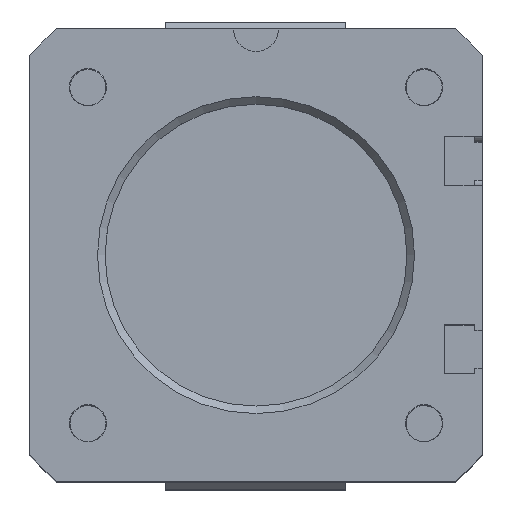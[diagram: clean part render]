
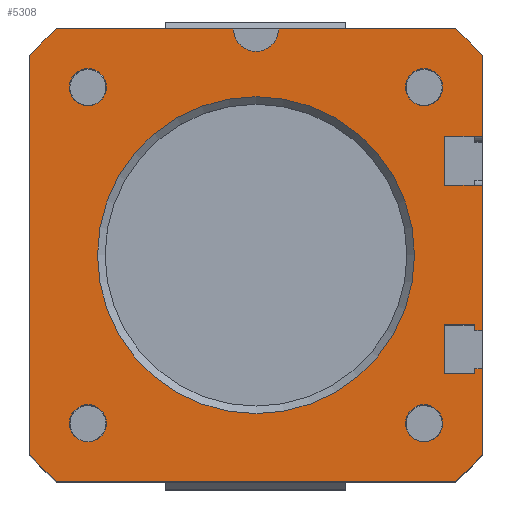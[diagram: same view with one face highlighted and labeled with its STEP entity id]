
A CAD part, top view. The second image highlights one B-rep face of the part: STEP entity #5308.
In plain terms, the highlighted planar face has unit normal (0, 0, 1).
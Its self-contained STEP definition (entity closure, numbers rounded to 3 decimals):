
#135=LINE('',#8026,#449);
#144=LINE('',#8052,#458);
#163=LINE('',#8119,#477);
#169=LINE('',#8134,#483);
#179=LINE('',#8153,#493);
#181=LINE('',#8157,#495);
#196=LINE('',#8188,#510);
#198=LINE('',#8193,#512);
#202=LINE('',#8201,#516);
#207=LINE('',#8210,#521);
#211=LINE('',#8217,#525);
#212=LINE('',#8220,#526);
#213=LINE('',#8225,#527);
#216=LINE('',#8229,#530);
#218=LINE('',#8234,#532);
#225=LINE('',#8332,#539);
#226=LINE('',#8333,#540);
#449=VECTOR('',#6488,52.915);
#458=VECTOR('',#6509,52.915);
#477=VECTOR('',#6564,19.2);
#483=VECTOR('',#6574,11.408);
#493=VECTOR('',#6584,10.708);
#495=VECTOR('',#6588,5.);
#510=VECTOR('',#6613,6.5);
#512=VECTOR('',#6617,1.);
#516=VECTOR('',#6623,4.);
#521=VECTOR('',#6630,6.5);
#525=VECTOR('',#6636,4.);
#526=VECTOR('',#6641,0.7);
#527=VECTOR('',#6646,0.7);
#530=VECTOR('',#6651,1.);
#532=VECTOR('',#6659,5.);
#539=VECTOR('',#6714,23.458);
#540=VECTOR('',#6715,23.458);
#846=PLANE('',#5767);
#1054=FACE_BOUND('',#1732,.T.);
#1055=FACE_BOUND('',#1733,.T.);
#1056=FACE_BOUND('',#1734,.T.);
#1057=FACE_BOUND('',#1735,.T.);
#1058=FACE_BOUND('',#1736,.T.);
#1364=FACE_OUTER_BOUND('',#1731,.T.);
#1731=EDGE_LOOP('',(#3894,#3895,#3896,#3897,#3898,#3899,#3900,#3901,#3902,
#3903,#3904,#3905,#3906,#3907,#3908,#3909,#3910,#3911,#3912,#3913,#3914,
#3915));
#1732=EDGE_LOOP('',(#3916));
#1733=EDGE_LOOP('',(#3917));
#1734=EDGE_LOOP('',(#3918));
#1735=EDGE_LOOP('',(#3919));
#1736=EDGE_LOOP('',(#3920));
#2177=CIRCLE('',#5702,40.);
#2181=CIRCLE('',#5708,40.);
#2183=CIRCLE('',#5711,40.);
#2185=CIRCLE('',#5714,40.);
#2201=CIRCLE('',#5751,2.459);
#2203=CIRCLE('',#5754,2.459);
#2204=CIRCLE('',#5756,2.459);
#2205=CIRCLE('',#5758,2.459);
#2209=CIRCLE('',#5768,3.);
#2210=CIRCLE('',#5769,21.);
#2465=VERTEX_POINT('',#8022);
#2467=VERTEX_POINT('',#8025);
#2474=VERTEX_POINT('',#8041);
#2478=VERTEX_POINT('',#8051);
#2488=VERTEX_POINT('',#8073);
#2490=VERTEX_POINT('',#8079);
#2492=VERTEX_POINT('',#8082);
#2494=VERTEX_POINT('',#8088);
#2507=VERTEX_POINT('',#8116);
#2508=VERTEX_POINT('',#8118);
#2515=VERTEX_POINT('',#8132);
#2524=VERTEX_POINT('',#8152);
#2525=VERTEX_POINT('',#8156);
#2536=VERTEX_POINT('',#8186);
#2538=VERTEX_POINT('',#8192);
#2540=VERTEX_POINT('',#8198);
#2541=VERTEX_POINT('',#8200);
#2544=VERTEX_POINT('',#8208);
#2546=VERTEX_POINT('',#8215);
#2548=VERTEX_POINT('',#8224);
#2550=VERTEX_POINT('',#8244);
#2552=VERTEX_POINT('',#8249);
#2553=VERTEX_POINT('',#8252);
#2554=VERTEX_POINT('',#8255);
#2562=VERTEX_POINT('',#8329);
#2563=VERTEX_POINT('',#8330);
#2564=VERTEX_POINT('',#8334);
#2969=EDGE_CURVE('',#2467,#2465,#135,.T.);
#2977=EDGE_CURVE('',#2474,#2467,#2177,.T.);
#2982=EDGE_CURVE('',#2478,#2474,#144,.T.);
#2993=EDGE_CURVE('',#2488,#2478,#2181,.T.);
#2997=EDGE_CURVE('',#2492,#2490,#2183,.T.);
#3001=EDGE_CURVE('',#2465,#2494,#2185,.T.);
#3014=EDGE_CURVE('',#2508,#2507,#163,.T.);
#3022=EDGE_CURVE('',#2494,#2515,#169,.T.);
#3032=EDGE_CURVE('',#2524,#2492,#179,.T.);
#3034=EDGE_CURVE('',#2507,#2525,#181,.T.);
#3050=EDGE_CURVE('',#2525,#2536,#196,.T.);
#3052=EDGE_CURVE('',#2538,#2508,#198,.T.);
#3056=EDGE_CURVE('',#2541,#2540,#202,.T.);
#3061=EDGE_CURVE('',#2540,#2544,#207,.T.);
#3065=EDGE_CURVE('',#2544,#2546,#211,.T.);
#3067=EDGE_CURVE('',#2546,#2538,#212,.T.);
#3069=EDGE_CURVE('',#2548,#2541,#213,.T.);
#3072=EDGE_CURVE('',#2515,#2548,#216,.T.);
#3075=EDGE_CURVE('',#2536,#2524,#218,.T.);
#3079=EDGE_CURVE('',#2550,#2550,#2201,.T.);
#3081=EDGE_CURVE('',#2552,#2552,#2203,.T.);
#3082=EDGE_CURVE('',#2553,#2553,#2204,.T.);
#3083=EDGE_CURVE('',#2554,#2554,#2205,.T.);
#3093=EDGE_CURVE('',#2562,#2563,#2209,.T.);
#3094=EDGE_CURVE('',#2563,#2488,#225,.T.);
#3095=EDGE_CURVE('',#2490,#2562,#226,.T.);
#3096=EDGE_CURVE('',#2564,#2564,#2210,.T.);
#3894=ORIENTED_EDGE('',*,*,#3093,.T.);
#3895=ORIENTED_EDGE('',*,*,#3094,.T.);
#3896=ORIENTED_EDGE('',*,*,#2993,.T.);
#3897=ORIENTED_EDGE('',*,*,#2982,.T.);
#3898=ORIENTED_EDGE('',*,*,#2977,.T.);
#3899=ORIENTED_EDGE('',*,*,#2969,.T.);
#3900=ORIENTED_EDGE('',*,*,#3001,.T.);
#3901=ORIENTED_EDGE('',*,*,#3022,.T.);
#3902=ORIENTED_EDGE('',*,*,#3072,.T.);
#3903=ORIENTED_EDGE('',*,*,#3069,.T.);
#3904=ORIENTED_EDGE('',*,*,#3056,.T.);
#3905=ORIENTED_EDGE('',*,*,#3061,.T.);
#3906=ORIENTED_EDGE('',*,*,#3065,.T.);
#3907=ORIENTED_EDGE('',*,*,#3067,.T.);
#3908=ORIENTED_EDGE('',*,*,#3052,.T.);
#3909=ORIENTED_EDGE('',*,*,#3014,.T.);
#3910=ORIENTED_EDGE('',*,*,#3034,.T.);
#3911=ORIENTED_EDGE('',*,*,#3050,.T.);
#3912=ORIENTED_EDGE('',*,*,#3075,.T.);
#3913=ORIENTED_EDGE('',*,*,#3032,.T.);
#3914=ORIENTED_EDGE('',*,*,#2997,.T.);
#3915=ORIENTED_EDGE('',*,*,#3095,.T.);
#3916=ORIENTED_EDGE('',*,*,#3079,.T.);
#3917=ORIENTED_EDGE('',*,*,#3081,.T.);
#3918=ORIENTED_EDGE('',*,*,#3082,.T.);
#3919=ORIENTED_EDGE('',*,*,#3083,.T.);
#3920=ORIENTED_EDGE('',*,*,#3096,.F.);
#5308=ADVANCED_FACE('',(#1364,#1054,#1055,#1056,#1057,#1058),#846,.T.);
#5702=AXIS2_PLACEMENT_3D('',#8042,#6498,#6499);
#5708=AXIS2_PLACEMENT_3D('',#8074,#6522,#6523);
#5711=AXIS2_PLACEMENT_3D('',#8083,#6530,#6531);
#5714=AXIS2_PLACEMENT_3D('',#8091,#6538,#6539);
#5751=AXIS2_PLACEMENT_3D('',#8245,#6674,#6675);
#5754=AXIS2_PLACEMENT_3D('',#8250,#6680,#6681);
#5756=AXIS2_PLACEMENT_3D('',#8253,#6684,#6685);
#5758=AXIS2_PLACEMENT_3D('',#8256,#6688,#6689);
#5767=AXIS2_PLACEMENT_3D('',#8328,#6710,#6711);
#5768=AXIS2_PLACEMENT_3D('',#8331,#6712,#6713);
#5769=AXIS2_PLACEMENT_3D('',#8335,#6716,#6717);
#6488=DIRECTION('',(1.,0.,0.));
#6498=DIRECTION('center_axis',(0.,0.,1.));
#6499=DIRECTION('ref_axis',(-0.75,-0.661,0.));
#6509=DIRECTION('',(0.,-1.,0.));
#6522=DIRECTION('center_axis',(0.,0.,1.));
#6523=DIRECTION('ref_axis',(-0.661,0.75,0.));
#6530=DIRECTION('center_axis',(0.,0.,1.));
#6531=DIRECTION('ref_axis',(0.75,0.661,0.));
#6538=DIRECTION('center_axis',(0.,0.,1.));
#6539=DIRECTION('ref_axis',(0.661,-0.75,0.));
#6564=DIRECTION('',(0.,1.,0.));
#6574=DIRECTION('',(0.,1.,0.));
#6584=DIRECTION('',(0.,1.,0.));
#6588=DIRECTION('',(-1.,0.,0.));
#6613=DIRECTION('',(0.,1.,0.));
#6617=DIRECTION('',(1.,0.,0.));
#6623=DIRECTION('',(-1.,0.,0.));
#6630=DIRECTION('',(0.,1.,0.));
#6636=DIRECTION('',(1.,0.,0.));
#6641=DIRECTION('',(0.,-1.,0.));
#6646=DIRECTION('',(0.,-1.,0.));
#6651=DIRECTION('',(-1.,0.,0.));
#6659=DIRECTION('',(1.,0.,0.));
#6674=DIRECTION('center_axis',(0.,0.,-1.));
#6675=DIRECTION('ref_axis',(0.,1.,0.));
#6680=DIRECTION('center_axis',(0.,0.,-1.));
#6681=DIRECTION('ref_axis',(0.,1.,0.));
#6684=DIRECTION('center_axis',(0.,0.,-1.));
#6685=DIRECTION('ref_axis',(0.,1.,0.));
#6688=DIRECTION('center_axis',(0.,0.,-1.));
#6689=DIRECTION('ref_axis',(0.,1.,0.));
#6710=DIRECTION('center_axis',(0.,0.,1.));
#6711=DIRECTION('ref_axis',(0.,1.,0.));
#6712=DIRECTION('center_axis',(0.,0.,-1.));
#6713=DIRECTION('ref_axis',(0.,-1.,0.));
#6714=DIRECTION('',(-1.,0.,0.));
#6715=DIRECTION('',(-1.,0.,0.));
#6716=DIRECTION('center_axis',(0.,0.,1.));
#6717=DIRECTION('ref_axis',(0.,-1.,0.));
#8022=CARTESIAN_POINT('',(148.416,70.08,190.8));
#8025=CARTESIAN_POINT('',(95.501,70.08,190.8));
#8026=CARTESIAN_POINT('',(91.958,70.08,190.8));
#8041=CARTESIAN_POINT('',(91.958,73.622,190.8));
#8042=CARTESIAN_POINT('Origin',(121.958,100.08,190.8));
#8051=CARTESIAN_POINT('',(91.958,126.538,190.8));
#8052=CARTESIAN_POINT('',(91.958,130.08,190.8));
#8073=CARTESIAN_POINT('',(95.501,130.08,190.8));
#8074=CARTESIAN_POINT('Origin',(121.958,100.08,190.8));
#8079=CARTESIAN_POINT('',(148.416,130.08,190.8));
#8082=CARTESIAN_POINT('',(151.958,126.538,190.8));
#8083=CARTESIAN_POINT('Origin',(121.958,100.08,190.8));
#8088=CARTESIAN_POINT('',(151.958,73.622,190.8));
#8091=CARTESIAN_POINT('Origin',(121.958,100.08,190.8));
#8116=CARTESIAN_POINT('',(151.958,109.33,190.8));
#8118=CARTESIAN_POINT('',(151.958,90.13,190.8));
#8119=CARTESIAN_POINT('',(151.958,70.08,190.8));
#8132=CARTESIAN_POINT('',(151.958,85.03,190.8));
#8134=CARTESIAN_POINT('',(151.958,70.08,190.8));
#8152=CARTESIAN_POINT('',(151.958,115.83,190.8));
#8153=CARTESIAN_POINT('',(151.958,70.08,190.8));
#8156=CARTESIAN_POINT('',(146.958,109.33,190.8));
#8157=CARTESIAN_POINT('',(134.458,109.33,190.8));
#8186=CARTESIAN_POINT('',(146.958,115.83,190.8));
#8188=CARTESIAN_POINT('',(146.958,107.955,190.8));
#8192=CARTESIAN_POINT('',(150.958,90.13,190.8));
#8193=CARTESIAN_POINT('',(136.958,90.13,190.8));
#8198=CARTESIAN_POINT('',(146.958,84.33,190.8));
#8200=CARTESIAN_POINT('',(150.958,84.33,190.8));
#8201=CARTESIAN_POINT('',(134.458,84.33,190.8));
#8208=CARTESIAN_POINT('',(146.958,90.83,190.8));
#8210=CARTESIAN_POINT('',(146.958,95.455,190.8));
#8215=CARTESIAN_POINT('',(150.958,90.83,190.8));
#8217=CARTESIAN_POINT('',(136.458,90.83,190.8));
#8220=CARTESIAN_POINT('',(150.958,95.105,190.8));
#8224=CARTESIAN_POINT('',(150.958,85.03,190.8));
#8225=CARTESIAN_POINT('',(150.958,92.205,190.8));
#8229=CARTESIAN_POINT('',(136.458,85.03,190.8));
#8234=CARTESIAN_POINT('',(136.458,115.83,190.8));
#8244=CARTESIAN_POINT('',(99.684,80.265,190.8));
#8245=CARTESIAN_POINT('Origin',(99.684,77.806,190.8));
#8249=CARTESIAN_POINT('',(144.232,80.265,190.8));
#8250=CARTESIAN_POINT('Origin',(144.232,77.806,190.8));
#8252=CARTESIAN_POINT('',(144.232,124.812,190.8));
#8253=CARTESIAN_POINT('Origin',(144.232,122.354,190.8));
#8255=CARTESIAN_POINT('',(99.684,124.812,190.8));
#8256=CARTESIAN_POINT('Origin',(99.684,122.354,190.8));
#8328=CARTESIAN_POINT('Origin',(121.958,100.08,190.8));
#8329=CARTESIAN_POINT('',(124.958,130.08,190.8));
#8330=CARTESIAN_POINT('',(118.958,130.08,190.8));
#8331=CARTESIAN_POINT('Origin',(121.958,130.08,190.8));
#8332=CARTESIAN_POINT('',(151.958,130.08,190.8));
#8333=CARTESIAN_POINT('',(151.958,130.08,190.8));
#8334=CARTESIAN_POINT('',(121.958,121.08,190.8));
#8335=CARTESIAN_POINT('Origin',(121.958,100.08,190.8));
